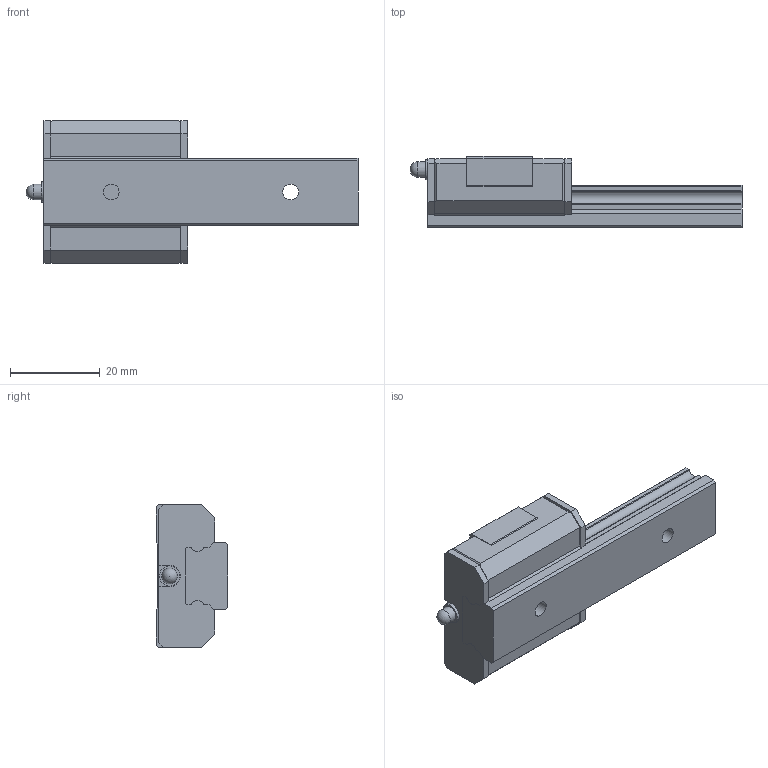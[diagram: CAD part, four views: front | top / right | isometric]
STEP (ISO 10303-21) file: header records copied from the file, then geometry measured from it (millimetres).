
FILE_DESCRIPTION(/* description */ ('STEP AP203'),/* implementation_level */ '2;1');
FILE_NAME(/* name */ 'SRS15GSSS-70LM_G15_0_PB107_0_0_0_0_1',/* time_stamp */ '2024-05-17T10:24:43+02:00',/* author */ ('License CC BY-ND 4.0'),/* organization */ ('CADENAS'),/* preprocessor_version */ 'ST-DEVELOPER v19.3',/* originating_system */ 'PARTsolutions',/* authorisation */ ' ');
FILE_SCHEMA (('CONFIG_CONTROL_DESIGN'));
Length unit declared in the file: millimetre
Products named in the file (4): SRS15GSSS-70LM_G15_0_PB107_0_0_0_0_1; SRS15S7015 Track; SRS15SSSPB1071 Slider; PB107-SRS Grease Nipple Joint
Assembly tree (3 placements, depth 2):
  SRS15GSSS-70LM_G15_0_PB107_0_0_0_0_1
    SRS15S7015 Track
    SRS15SSSPB1071 Slider
    PB107-SRS Grease Nipple Joint
Bounding box: 74 x 16 x 32 mm (x, y, z)
Volume: 18303.9 mm3; surface area: 7967 mm2
Topology: 3 solids, 3 shells, 135 faces, 354 edges, 230 vertices
Faces by surface type: plane 103, cylinder 27, cone 4, sphere 1
Full cylindrical faces by diameter (mm): 2.459 x2, 3 x3, 3.5 x3, 4.5 x1, 6 x2
Entity records: 4083 total; most frequent: CARTESIAN_POINT 697, DIRECTION 666, ORIENTED_EDGE 664, EDGE_CURVE 332, LINE 276, VECTOR 276, VERTEX_POINT 226, AXIS2_PLACEMENT_3D 195
